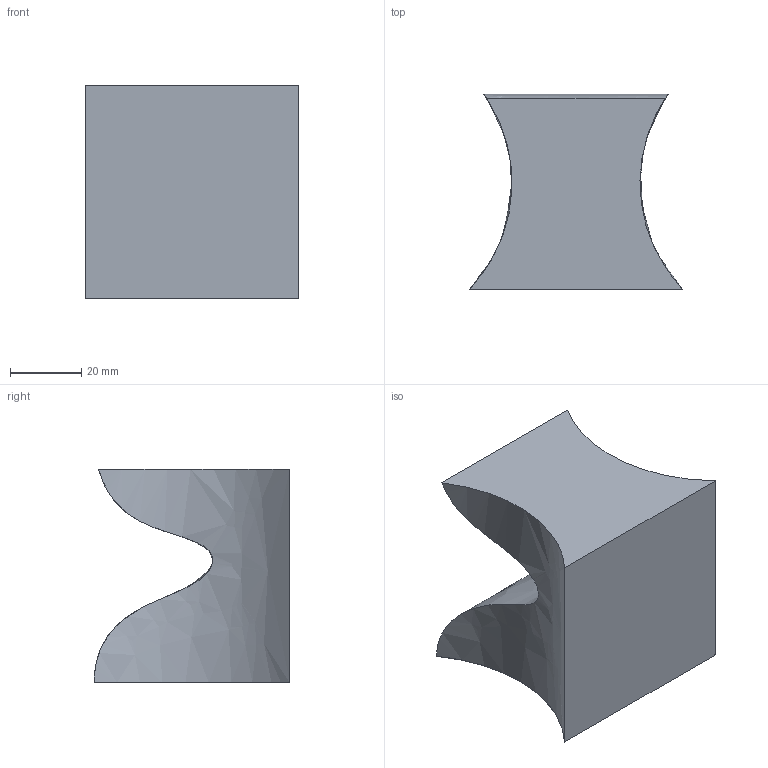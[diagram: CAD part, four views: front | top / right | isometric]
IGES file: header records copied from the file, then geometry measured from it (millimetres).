
Global section: file name: B_Ex_10_4; native system: AutoCAD 2016 - Español (Spanish),; preprocessor: Autodesk Translation Framework DWG producer (atf_dwg_producer); organization: unknown; date: 20200816.224314; units: millimetre
Bounding box: 60 x 55 x 60 mm (x, y, z)
Volume: 106728.1 mm3; surface area: 22184.2 mm2
Topology: 1 solids, 1 shells, 8 faces, 20 edges, 16 vertices
Faces by surface type: bspline 8
